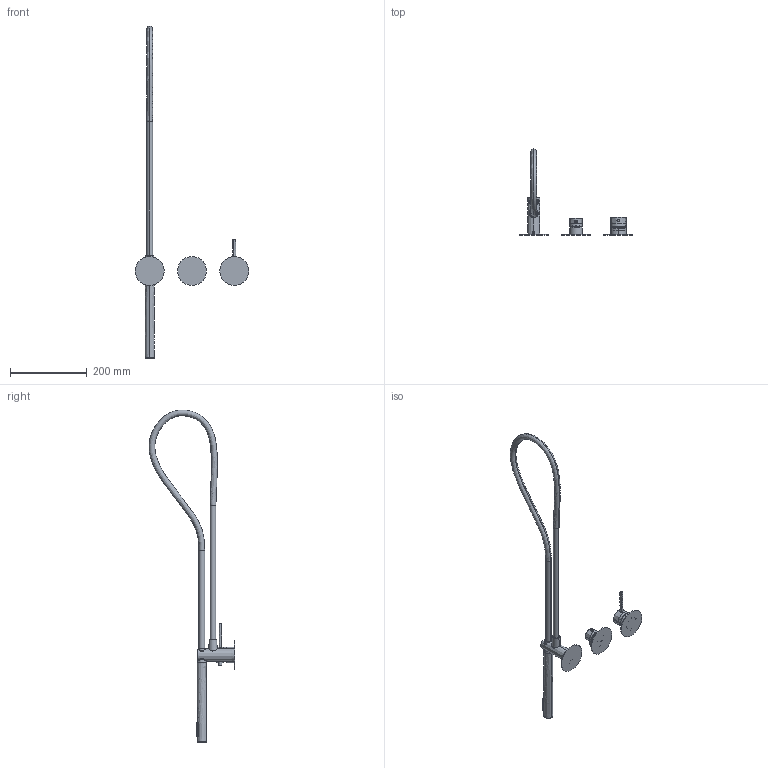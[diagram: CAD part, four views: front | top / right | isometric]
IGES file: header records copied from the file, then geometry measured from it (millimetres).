
Start section:  PTC IGES file: 69559v3.igs
Global section: file name: 69559v3.igs; native system: Creo Parametric by PTC Inc.; preprocessor: 2022014; author: carloff; organization: Unknown; date: 20250214.110244; units: millimetre
Bounding box: 295 x 223.09 x 863.13 mm (x, y, z)
Surface area: 157688.9 mm2 (no closed solid volume)
Topology: 0 solids, 0 shells, 751 faces, 3792 edges, 3784 vertices
Faces by surface type: revolution 469, bspline 282
